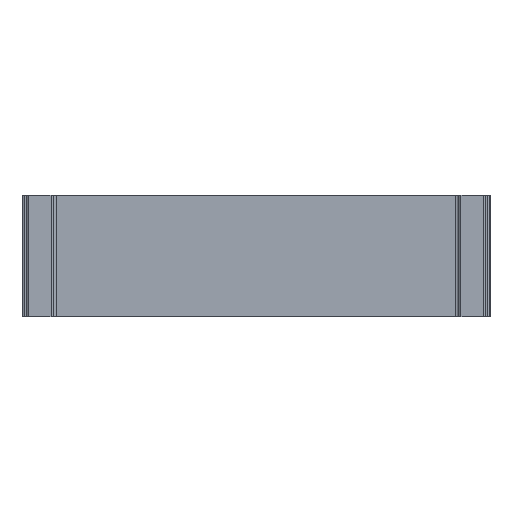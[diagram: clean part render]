
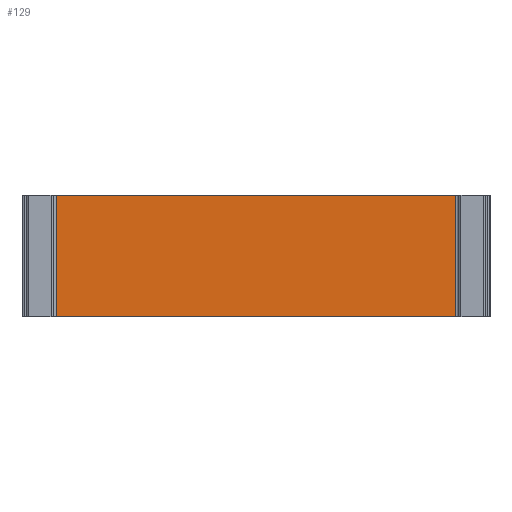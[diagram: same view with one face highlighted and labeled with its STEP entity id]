
A CAD part, left-side view. The second image highlights one B-rep face of the part: STEP entity #129.
In plain terms, the highlighted planar face has unit normal (-1, 0, 0).
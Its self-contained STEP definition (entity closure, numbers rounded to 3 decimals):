
#129=ADVANCED_FACE('',(#229),#1781,.T.);
#229=FACE_OUTER_BOUND('',#335,.T.);
#335=EDGE_LOOP('',(#703,#704,#705,#706));
#703=ORIENTED_EDGE('',*,*,#1128,.T.);
#704=ORIENTED_EDGE('',*,*,#1129,.T.);
#705=ORIENTED_EDGE('',*,*,#1130,.F.);
#706=ORIENTED_EDGE('',*,*,#1126,.F.);
#1126=EDGE_CURVE('',#1647,#1648,#1414,.T.);
#1128=EDGE_CURVE('',#1647,#1649,#1416,.T.);
#1129=EDGE_CURVE('',#1649,#1650,#1417,.T.);
#1130=EDGE_CURVE('',#1648,#1650,#1418,.T.);
#1414=(
BOUNDED_CURVE()
B_SPLINE_CURVE(1,(#2838,#2839),.UNSPECIFIED.,.F.,.F.)
B_SPLINE_CURVE_WITH_KNOTS((2,2),(0.,70.),.UNSPECIFIED.)
CURVE()
GEOMETRIC_REPRESENTATION_ITEM()
RATIONAL_B_SPLINE_CURVE((1.,1.))
REPRESENTATION_ITEM('')
);
#1416=(
BOUNDED_CURVE()
B_SPLINE_CURVE(2,(#2843,#2844,#2845),.UNSPECIFIED.,.F.,.F.)
B_SPLINE_CURVE_WITH_KNOTS((3,3),(-7388.391,-7153.391),
 .UNSPECIFIED.)
CURVE()
GEOMETRIC_REPRESENTATION_ITEM()
RATIONAL_B_SPLINE_CURVE((1.,1.,1.))
REPRESENTATION_ITEM('')
);
#1417=(
BOUNDED_CURVE()
B_SPLINE_CURVE(1,(#2846,#2847),.UNSPECIFIED.,.F.,.F.)
B_SPLINE_CURVE_WITH_KNOTS((2,2),(0.,70.),.UNSPECIFIED.)
CURVE()
GEOMETRIC_REPRESENTATION_ITEM()
RATIONAL_B_SPLINE_CURVE((1.,1.))
REPRESENTATION_ITEM('')
);
#1418=(
BOUNDED_CURVE()
B_SPLINE_CURVE(2,(#2848,#2849,#2850),.UNSPECIFIED.,.F.,.F.)
B_SPLINE_CURVE_WITH_KNOTS((3,3),(-7388.391,-7153.391),
 .UNSPECIFIED.)
CURVE()
GEOMETRIC_REPRESENTATION_ITEM()
RATIONAL_B_SPLINE_CURVE((1.,1.,1.))
REPRESENTATION_ITEM('')
);
#1647=VERTEX_POINT('',#2697);
#1648=VERTEX_POINT('',#2698);
#1649=VERTEX_POINT('',#2699);
#1650=VERTEX_POINT('',#2700);
#1781=PLANE('',#1877);
#1877=AXIS2_PLACEMENT_3D('',#2539,#1956,$);
#1956=DIRECTION('',(-1.,0.,0.));
#2539=CARTESIAN_POINT('',(17846.822,-8522.406,0.));
#2697=CARTESIAN_POINT('',(17846.822,-8522.406,0.));
#2698=CARTESIAN_POINT('',(17846.822,-8522.406,70.));
#2699=CARTESIAN_POINT('',(17846.822,-8753.054,0.));
#2700=CARTESIAN_POINT('',(17846.822,-8753.054,70.));
#2838=CARTESIAN_POINT('',(17846.822,-8522.406,0.));
#2839=CARTESIAN_POINT('',(17846.822,-8522.406,70.));
#2843=CARTESIAN_POINT('',(17846.822,-8522.406,0.));
#2844=CARTESIAN_POINT('',(17846.822,-8637.73,0.));
#2845=CARTESIAN_POINT('',(17846.822,-8753.054,0.));
#2846=CARTESIAN_POINT('',(17846.822,-8753.054,0.));
#2847=CARTESIAN_POINT('',(17846.822,-8753.054,70.));
#2848=CARTESIAN_POINT('',(17846.822,-8522.406,70.));
#2849=CARTESIAN_POINT('',(17846.822,-8637.73,70.));
#2850=CARTESIAN_POINT('',(17846.822,-8753.054,70.));
